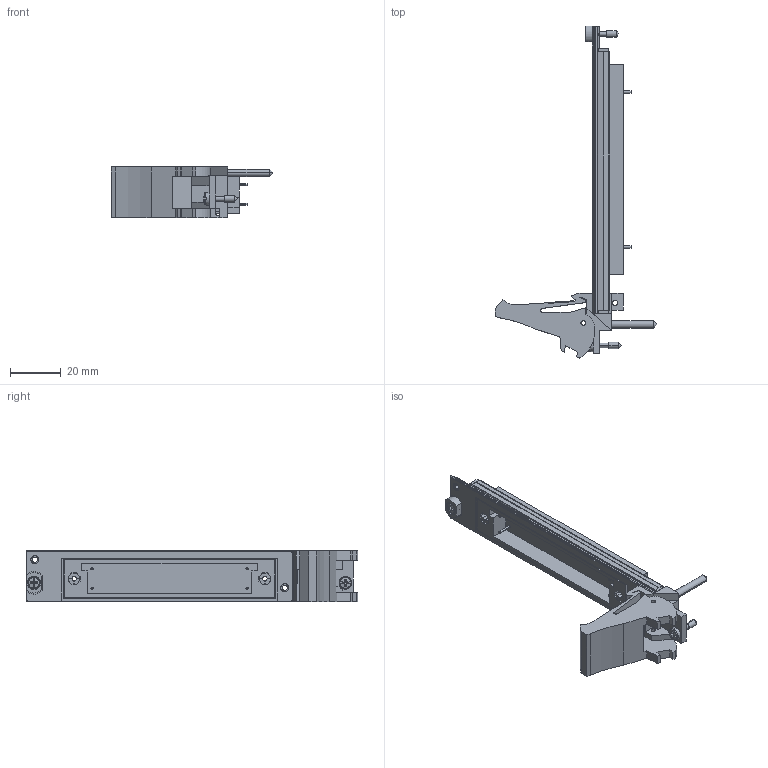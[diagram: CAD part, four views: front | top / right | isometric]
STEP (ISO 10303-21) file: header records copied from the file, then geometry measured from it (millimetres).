
FILE_DESCRIPTION((''),'2;1');
FILE_NAME('CU_PXIE-2529','2009-11-05T',('jjorden'),(''),'PRO/ENGINEER BY PARAMETRIC TECHNOLOGY CORPORATION, 2006080','PRO/ENGINEER BY PARAMETRIC TECHNOLOGY CORPORATION, 2006080','');
FILE_SCHEMA(('CONFIG_CONTROL_DESIGN'));
Length unit declared in the file: inch
Products named in the file (1): CU_PXIE-2529
Bounding box: 63.53 x 130.5 x 20.31 mm (x, y, z)
Volume: 20791.1 mm3; surface area: 19767.7 mm2
Topology: 3 solids, 3 shells, 436 faces, 1166 edges, 762 vertices
Faces by surface type: plane 293, cylinder 121, cone 14, torus 4, sphere 4
Entity records: 13742 total; most frequent: CARTESIAN_POINT 2533, ORIENTED_EDGE 2324, DIRECTION 2313, EDGE_CURVE 1162, VECTOR 843, LINE 843, VERTEX_POINT 762, AXIS2_PLACEMENT_3D 735
